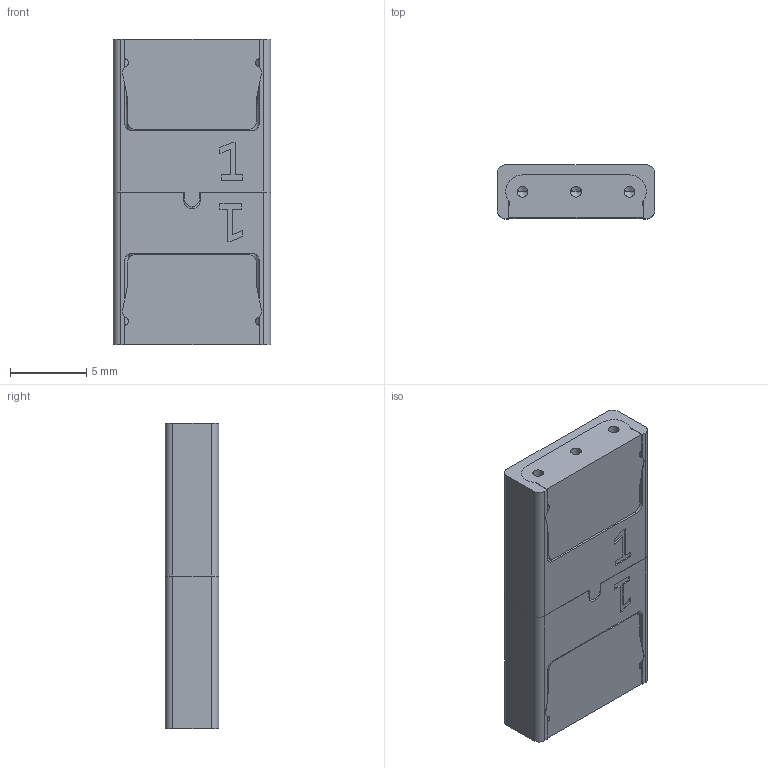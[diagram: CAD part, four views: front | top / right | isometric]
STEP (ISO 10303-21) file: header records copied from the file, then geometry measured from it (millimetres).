
FILE_DESCRIPTION(/* description */ (''),/* implementation_level */ '2;1');
FILE_NAME(/* name */ 'A001737A_VOL-001.stp',/* time_stamp */ '2024-12-11T16:44:56+01:00',/* author */ (''),/* organization */ ('JPE'),/* preprocessor_version */ 'ST-DEVELOPER v20',/* originating_system */ 'SIEMENS PLM Software NX2406.3002',/* authorisation */ '');
FILE_SCHEMA (('AUTOMOTIVE_DESIGN { 1 0 10303 214 3 1 1 1 }'));
Products named in the file (7): PP05311; PP05310; P183001B; P183000B_MODEL; P182999B_MODEL; A001737A; A001737A_BRO-001a
Assembly tree (11 placements, depth 4):
  A001737A_BRO-001a
    A001737A
      P182999B_MODEL
        PP05310  x3
      P183001B  x2
      P183000B_MODEL
        PP05311  x3
Bounding box: 10.3 x 3.5 x 20 mm (x, y, z)
Volume: 612.1 mm3; surface area: 1531.3 mm2
Topology: 10 solids, 10 shells, 386 faces, 1002 edges, 625 vertices
Faces by surface type: cylinder 164, plane 141, cone 69, torus 6, sphere 6
Full cylindrical faces by diameter (mm): 0.7 x6, 1.2 x3, 1.3 x3, 1.8 x3
Entity records: 6665 total; most frequent: CARTESIAN_POINT 1450, DIRECTION 1054, ORIENTED_EDGE 1028, EDGE_CURVE 514, AXIS2_PLACEMENT_3D 387, VERTEX_POINT 342, LINE 280, VECTOR 280
